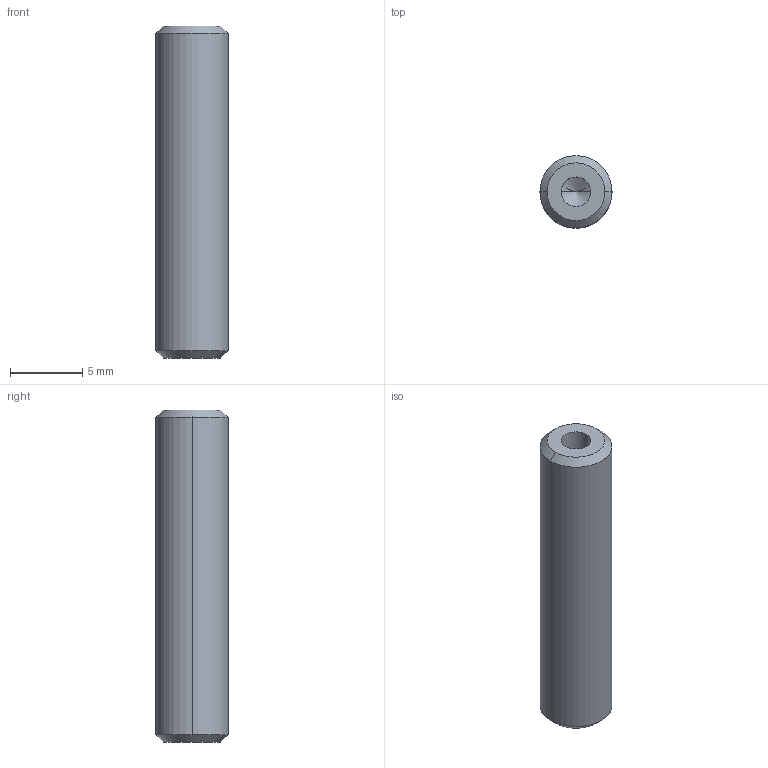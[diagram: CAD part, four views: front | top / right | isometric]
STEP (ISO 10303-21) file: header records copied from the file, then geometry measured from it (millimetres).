
FILE_DESCRIPTION(/* description */ (''),/* implementation_level */ '2;1');
FILE_NAME(/* name */ 'CWC-CY0013-P99_Encoder Bracket Standoff.stp',/* time_stamp */ '2026-02-19T09:32:59+01:00',/* author */ (''),/* organization */ (''),/* preprocessor_version */ 'ST-DEVELOPER v18.1',/* originating_system */ 'SIEMENS PLM Software NX 1988',/* authorisation */ '');
FILE_SCHEMA (('AUTOMOTIVE_DESIGN { 1 0 10303 214 3 1 1 1 }'));
Length unit declared in the file: millimetre
Products named in the file (1): anto80DCB5E9lj7m
Bounding box: 5 x 5 x 23 mm (x, y, z)
Volume: 398.7 mm3; surface area: 485.2 mm2
Topology: 1 solids, 1 shells, 16 faces, 34 edges, 18 vertices
Faces by surface type: cone 8, cylinder 6, plane 2
Entity records: 434 total; most frequent: DIRECTION 80, CARTESIAN_POINT 65, ORIENTED_EDGE 60, AXIS2_PLACEMENT_3D 33, EDGE_CURVE 30, EDGE_LOOP 18, VERTEX_POINT 18, ADVANCED_FACE 16
